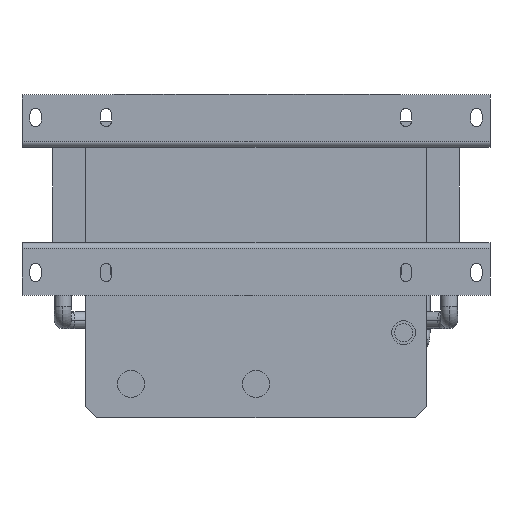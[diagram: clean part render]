
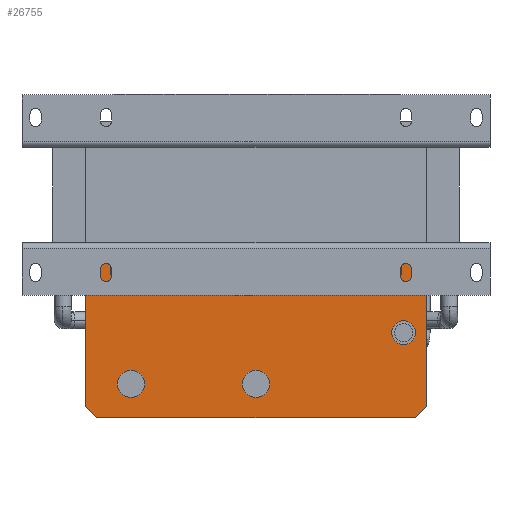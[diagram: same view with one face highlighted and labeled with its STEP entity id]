
A CAD part, front view. The second image highlights one B-rep face of the part: STEP entity #26755.
In plain terms, the highlighted planar face has unit normal (0, -1, 0).
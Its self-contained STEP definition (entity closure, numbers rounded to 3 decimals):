
#225 = CARTESIAN_POINT ( 'NONE',  ( -110., 53., -178.15 ) ) ;
#319 = ORIENTED_EDGE ( 'NONE', *, *, #25752, .F. ) ;
#519 = LINE ( 'NONE', #30723, #34595 ) ;
#932 = FACE_BOUND ( 'NONE', #11100, .T. ) ;
#1691 = LINE ( 'NONE', #6633, #15853 ) ;
#2111 = CIRCLE ( 'NONE', #5595, 10.5 ) ;
#3055 = CIRCLE ( 'NONE', #10082, 12. ) ;
#3226 = DIRECTION ( 'NONE',  ( 0., 0., 1. ) ) ;
#3674 = CIRCLE ( 'NONE', #4238, 12. ) ;
#3895 = CARTESIAN_POINT ( 'NONE',  ( 0., 53., -178.15 ) ) ;
#4024 = PLANE ( 'NONE',  #35089 ) ;
#4238 = AXIS2_PLACEMENT_3D ( 'NONE', #7886, #27640, #30208 ) ;
#5329 = ORIENTED_EDGE ( 'NONE', *, *, #29341, .T. ) ;
#5595 = AXIS2_PLACEMENT_3D ( 'NONE', #31878, #6815, #24391 ) ;
#5742 = CARTESIAN_POINT ( 'NONE',  ( -150., 53., -186.15 ) ) ;
#6032 = VERTEX_POINT ( 'NONE', #225 ) ;
#6432 = CARTESIAN_POINT ( 'NONE',  ( 150., 53., -54.15 ) ) ;
#6606 = VERTEX_POINT ( 'NONE', #17742 ) ;
#6633 = CARTESIAN_POINT ( 'NONE',  ( -150., 53., -54.15 ) ) ;
#6635 = VERTEX_POINT ( 'NONE', #9299 ) ;
#6815 = DIRECTION ( 'NONE',  ( 0., -1., 0. ) ) ;
#7778 = VECTOR ( 'NONE', #12862, 1000. ) ;
#7827 = EDGE_CURVE ( 'NONE', #20528, #9581, #3674, .T. ) ;
#7886 = CARTESIAN_POINT ( 'NONE',  ( 0., 53., -166.15 ) ) ;
#8074 = EDGE_LOOP ( 'NONE', ( #26137, #9451 ) ) ;
#8611 = CARTESIAN_POINT ( 'NONE',  ( -110., 53., -154.15 ) ) ;
#9299 = CARTESIAN_POINT ( 'NONE',  ( 130., 53., -131.65 ) ) ;
#9318 = CARTESIAN_POINT ( 'NONE',  ( 150., 53., -54.15 ) ) ;
#9451 = ORIENTED_EDGE ( 'NONE', *, *, #7827, .F. ) ;
#9581 = VERTEX_POINT ( 'NONE', #23994 ) ;
#9926 = CARTESIAN_POINT ( 'NONE',  ( 150., 53., -54.15 ) ) ;
#10082 = AXIS2_PLACEMENT_3D ( 'NONE', #23895, #18400, #29559 ) ;
#10455 = DIRECTION ( 'NONE',  ( 0.707, 0., 0.707 ) ) ;
#10619 = CIRCLE ( 'NONE', #33966, 12. ) ;
#11100 = EDGE_LOOP ( 'NONE', ( #25826, #18904 ) ) ;
#11368 = VERTEX_POINT ( 'NONE', #34894 ) ;
#11899 = FACE_OUTER_BOUND ( 'NONE', #26251, .T. ) ;
#11920 = ORIENTED_EDGE ( 'NONE', *, *, #29677, .T. ) ;
#12096 = VERTEX_POINT ( 'NONE', #9318 ) ;
#12862 = DIRECTION ( 'NONE',  ( 0., 0., 1. ) ) ;
#13291 = VERTEX_POINT ( 'NONE', #35404 ) ;
#13534 = EDGE_CURVE ( 'NONE', #6606, #32848, #1691, .T. ) ;
#14066 = DIRECTION ( 'NONE',  ( 0.707, 0., -0.707 ) ) ;
#14094 = AXIS2_PLACEMENT_3D ( 'NONE', #20862, #32005, #26532 ) ;
#15853 = VECTOR ( 'NONE', #26585, 1000. ) ;
#15973 = ORIENTED_EDGE ( 'NONE', *, *, #32240, .F. ) ;
#16144 = LINE ( 'NONE', #27305, #30339 ) ;
#16729 = EDGE_LOOP ( 'NONE', ( #319, #21095 ) ) ;
#16798 = DIRECTION ( 'NONE',  ( -1., 0., 0. ) ) ;
#17451 = VERTEX_POINT ( 'NONE', #8611 ) ;
#17742 = CARTESIAN_POINT ( 'NONE',  ( -150., 53., -54.15 ) ) ;
#17945 = FACE_BOUND ( 'NONE', #8074, .T. ) ;
#18096 = EDGE_CURVE ( 'NONE', #6032, #17451, #3055, .T. ) ;
#18119 = CARTESIAN_POINT ( 'NONE',  ( -110., 53., -166.15 ) ) ;
#18400 = DIRECTION ( 'NONE',  ( 0., -1., 0. ) ) ;
#18785 = EDGE_CURVE ( 'NONE', #17451, #6032, #27051, .T. ) ;
#18904 = ORIENTED_EDGE ( 'NONE', *, *, #18096, .F. ) ;
#19105 = CARTESIAN_POINT ( 'NONE',  ( -140., 53., -196.15 ) ) ;
#19993 = DIRECTION ( 'NONE',  ( -1., 0., 0. ) ) ;
#20139 = CARTESIAN_POINT ( 'NONE',  ( 150., 53., -186.15 ) ) ;
#20417 = CARTESIAN_POINT ( 'NONE',  ( 0., 53., -166.15 ) ) ;
#20524 = CIRCLE ( 'NONE', #14094, 10.5 ) ;
#20528 = VERTEX_POINT ( 'NONE', #3895 ) ;
#20862 = CARTESIAN_POINT ( 'NONE',  ( 130., 53., -121.15 ) ) ;
#21095 = ORIENTED_EDGE ( 'NONE', *, *, #31766, .F. ) ;
#22638 = DIRECTION ( 'NONE',  ( 0., -1., 0. ) ) ;
#23084 = DIRECTION ( 'NONE',  ( 0., 1., 0. ) ) ;
#23562 = AXIS2_PLACEMENT_3D ( 'NONE', #18119, #29658, #34777 ) ;
#23819 = VERTEX_POINT ( 'NONE', #20139 ) ;
#23895 = CARTESIAN_POINT ( 'NONE',  ( -110., 53., -166.15 ) ) ;
#23994 = CARTESIAN_POINT ( 'NONE',  ( 0., 53., -154.15 ) ) ;
#24391 = DIRECTION ( 'NONE',  ( 0., 0., 1. ) ) ;
#24871 = LINE ( 'NONE', #31046, #35437 ) ;
#25752 = EDGE_CURVE ( 'NONE', #13291, #6635, #20524, .T. ) ;
#25826 = ORIENTED_EDGE ( 'NONE', *, *, #18785, .F. ) ;
#26042 = LINE ( 'NONE', #6432, #31735 ) ;
#26137 = ORIENTED_EDGE ( 'NONE', *, *, #27519, .F. ) ;
#26251 = EDGE_LOOP ( 'NONE', ( #5329, #11920, #35389, #26422, #15973, #29698 ) ) ;
#26358 = CARTESIAN_POINT ( 'NONE',  ( 150., 53., -46.15 ) ) ;
#26413 = LINE ( 'NONE', #9926, #7778 ) ;
#26422 = ORIENTED_EDGE ( 'NONE', *, *, #28317, .T. ) ;
#26532 = DIRECTION ( 'NONE',  ( 0., 0., 1. ) ) ;
#26585 = DIRECTION ( 'NONE',  ( 0., 0., -1. ) ) ;
#26755 = ADVANCED_FACE ( 'NONE', ( #28922, #932, #17945, #11899 ), #4024, .F. ) ;
#27051 = CIRCLE ( 'NONE', #23562, 12. ) ;
#27305 = CARTESIAN_POINT ( 'NONE',  ( 140., 53., -196.15 ) ) ;
#27519 = EDGE_CURVE ( 'NONE', #9581, #20528, #10619, .T. ) ;
#27640 = DIRECTION ( 'NONE',  ( 0., -1., 0. ) ) ;
#28317 = EDGE_CURVE ( 'NONE', #32848, #30621, #519, .T. ) ;
#28735 = DIRECTION ( 'NONE',  ( 0., 0., 1. ) ) ;
#28922 = FACE_BOUND ( 'NONE', #16729, .T. ) ;
#29341 = EDGE_CURVE ( 'NONE', #23819, #12096, #26413, .T. ) ;
#29559 = DIRECTION ( 'NONE',  ( 0., 0., 1. ) ) ;
#29658 = DIRECTION ( 'NONE',  ( 0., -1., 0. ) ) ;
#29677 = EDGE_CURVE ( 'NONE', #12096, #6606, #26042, .T. ) ;
#29698 = ORIENTED_EDGE ( 'NONE', *, *, #29879, .T. ) ;
#29879 = EDGE_CURVE ( 'NONE', #11368, #23819, #16144, .T. ) ;
#30208 = DIRECTION ( 'NONE',  ( 0., 0., 1. ) ) ;
#30339 = VECTOR ( 'NONE', #10455, 1000. ) ;
#30621 = VERTEX_POINT ( 'NONE', #19105 ) ;
#30723 = CARTESIAN_POINT ( 'NONE',  ( -150., 53., -186.15 ) ) ;
#31046 = CARTESIAN_POINT ( 'NONE',  ( 150., 53., -196.15 ) ) ;
#31735 = VECTOR ( 'NONE', #19993, 1000. ) ;
#31766 = EDGE_CURVE ( 'NONE', #6635, #13291, #2111, .T. ) ;
#31878 = CARTESIAN_POINT ( 'NONE',  ( 130., 53., -121.15 ) ) ;
#32005 = DIRECTION ( 'NONE',  ( 0., -1., 0. ) ) ;
#32240 = EDGE_CURVE ( 'NONE', #11368, #30621, #24871, .T. ) ;
#32848 = VERTEX_POINT ( 'NONE', #5742 ) ;
#33966 = AXIS2_PLACEMENT_3D ( 'NONE', #20417, #22638, #3226 ) ;
#34595 = VECTOR ( 'NONE', #14066, 1000. ) ;
#34777 = DIRECTION ( 'NONE',  ( 0., 0., 1. ) ) ;
#34894 = CARTESIAN_POINT ( 'NONE',  ( 140., 53., -196.15 ) ) ;
#35089 = AXIS2_PLACEMENT_3D ( 'NONE', #26358, #23084, #28735 ) ;
#35389 = ORIENTED_EDGE ( 'NONE', *, *, #13534, .T. ) ;
#35404 = CARTESIAN_POINT ( 'NONE',  ( 130., 53., -110.65 ) ) ;
#35437 = VECTOR ( 'NONE', #16798, 1000. ) ;
